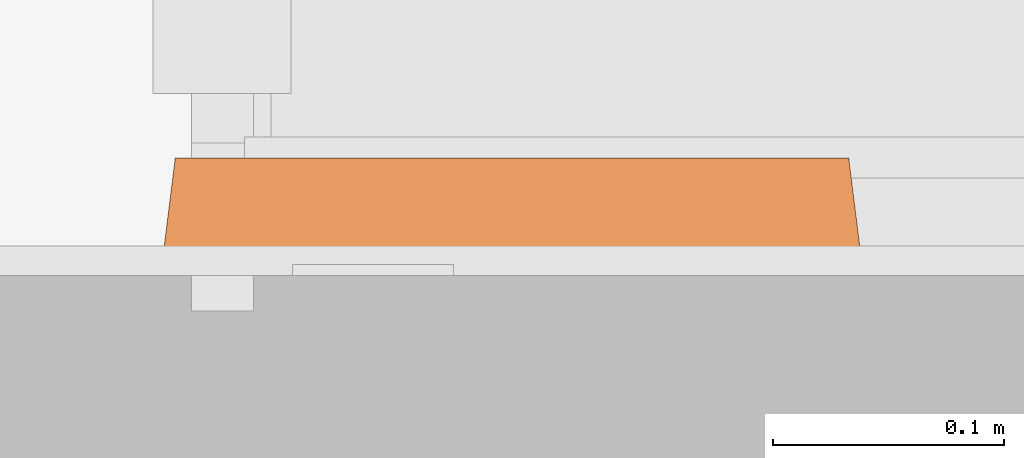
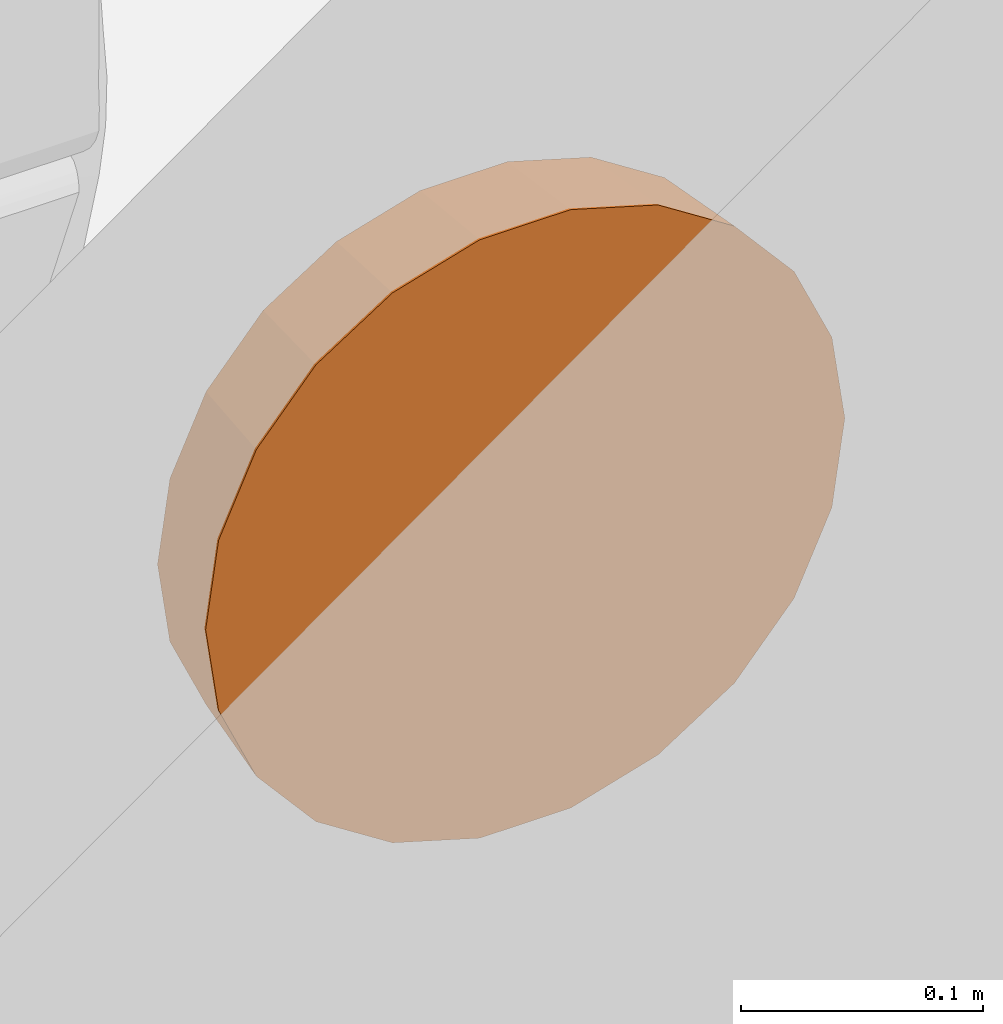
# One storey, part 8 of 11: 1 proxy.
"""IFC2X3 building model written with IfcOpenShell, lengths in feet."""

from ifc_helpers import new_model, entity, si_unit, converted_unit, derived_unit, direction, frame, origin, place, context, subcontext, project, spatial, faceted_brep, source, transform, mapped, material, type_object, type_shapes, element, save


model = new_model("IFC2X3")

# Units and contexts
model_context = context("Model", 3, precision=0.0001, world=origin(), true_north=direction((6.12303176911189e-17, 1.0)))
body_context = subcontext(model_context, "Body", "Model", "MODEL_VIEW")
ifc_project = project(units=[converted_unit("LENGTHUNIT", "FOOT", entity("IfcRatioMeasure", 0.3048), si_unit("LENGTHUNIT", "METRE"), dimensions=[1, 0, 0, 0, 0, 0, 0]), converted_unit("AREAUNIT", "SQUARE FOOT", entity("IfcRatioMeasure", 0.09290304), si_unit("AREAUNIT", "SQUARE_METRE"), dimensions=[2, 0, 0, 0, 0, 0, 0]), converted_unit("VOLUMEUNIT", "CUBIC FOOT", entity("IfcRatioMeasure", 0.028316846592), si_unit("VOLUMEUNIT", "CUBIC_METRE"), dimensions=[3, 0, 0, 0, 0, 0, 0]), converted_unit("PLANEANGLEUNIT", "DEGREE", entity("IfcRatioMeasure", 0.0174532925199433), si_unit("PLANEANGLEUNIT", "RADIAN"), dimensions=[0, 0, 0, 0, 0, 0, 0]), si_unit("MASSUNIT", "GRAM", prefix="KILO"), derived_unit("MASSDENSITYUNIT", [(si_unit("MASSUNIT", "GRAM", prefix="KILO"), 1), (si_unit("LENGTHUNIT", "METRE"), -3)]), si_unit("TIMEUNIT", "SECOND"), si_unit("FREQUENCYUNIT", "HERTZ"), si_unit("THERMODYNAMICTEMPERATUREUNIT", "DEGREE_CELSIUS"), derived_unit("THERMALTRANSMITTANCEUNIT", [(si_unit("MASSUNIT", "GRAM", prefix="KILO"), 1), (si_unit("THERMODYNAMICTEMPERATUREUNIT", "KELVIN"), -1), (si_unit("TIMEUNIT", "SECOND"), -3)]), derived_unit("VOLUMETRICFLOWRATEUNIT", [(si_unit("LENGTHUNIT", "METRE"), 3), (si_unit("TIMEUNIT", "SECOND"), -1)]), si_unit("ELECTRICCURRENTUNIT", "AMPERE"), si_unit("ELECTRICVOLTAGEUNIT", "VOLT"), si_unit("POWERUNIT", "WATT"), si_unit("FORCEUNIT", "NEWTON"), si_unit("ILLUMINANCEUNIT", "LUX"), si_unit("LUMINOUSFLUXUNIT", "LUMEN"), si_unit("LUMINOUSINTENSITYUNIT", "CANDELA"), derived_unit("USERDEFINED", [(si_unit("MASSUNIT", "GRAM", prefix="KILO"), -1), (si_unit("LENGTHUNIT", "METRE"), -2), (si_unit("TIMEUNIT", "SECOND"), 3), (si_unit("LUMINOUSFLUXUNIT", "LUMEN"), 1)]), derived_unit("LINEARVELOCITYUNIT", [(si_unit("LENGTHUNIT", "METRE"), 1), (si_unit("TIMEUNIT", "SECOND"), -1)]), si_unit("PRESSUREUNIT", "PASCAL"), derived_unit("USERDEFINED", [(si_unit("LENGTHUNIT", "METRE"), -2), (si_unit("MASSUNIT", "GRAM", prefix="KILO"), 1), (si_unit("TIMEUNIT", "SECOND"), -2)])], contexts=[model_context])

# Site, building, storey, space
site_placement = place(None, origin())
site = spatial("IfcSite", under=ifc_project, at=site_placement, Name="Default", CompositionType="ELEMENT")
building_placement = place(site_placement, origin())
building = spatial("IfcBuilding", under=site, at=building_placement, Name="EYE CLINIC:  OPTHALMOLOGY AND OPTOMETRY SERVICES (Ch. 233)", CompositionType="ELEMENT")
storey_placement = place(building_placement, origin())
storey = spatial("IfcBuildingStorey", under=building, at=storey_placement, Name="DATUM", CompositionType="ELEMENT", Elevation=0.0)
space_placement = place(storey_placement, origin())
space = spatial("IfcSpace", under=storey, at=space_placement, Name="(OPET2)", CompositionType="ELEMENT", InteriorOrExteriorSpace="INTERNAL")

# Proxy
ifc_material = material(Name="WHITE")
building_element_proxy_type = type_object("IfcBuildingElementProxyType", Name="F3200 - Clock, Battery, 12in Dia", PredefinedType="NOTDEFINED", material=ifc_material)
shared_shape = source(origin(), body_context, "Body", "Brep", [
    faceted_brep([(0.218750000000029, 0.121113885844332, 0.16666666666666), (0.309359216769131, 0.190640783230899, 0.16666666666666), (0.3788861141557, 0.281250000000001, 0.16666666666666), (0.422592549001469, 0.386766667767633, 0.16666666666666), (0.437500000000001, 0.499999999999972, 0.16666666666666), (0.42259254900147, 0.613233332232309, 0.16666666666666), (0.378886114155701, 0.718749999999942, 0.16666666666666), (0.309359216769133, 0.809359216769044, 0.16666666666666), (0.218750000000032, 0.878886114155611, 0.16666666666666), (0.113233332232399, 0.922592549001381, 0.16666666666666), (0.0, 0.937499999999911, 0.16666666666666), (-0.113233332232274, 0.922592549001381, 0.16666666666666), (-0.218749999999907, 0.878886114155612, 0.16666666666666), (-0.309359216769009, 0.809359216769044, 0.16666666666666), (-0.378886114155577, 0.718749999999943, 0.16666666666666), (-0.422592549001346, 0.613233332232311, 0.16666666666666), (-0.437499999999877, 0.499999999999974, 0.16666666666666), (-0.422592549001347, 0.386766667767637, 0.16666666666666), (-0.378886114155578, 0.281250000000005, 0.16666666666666), (-0.309359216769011, 0.190640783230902, 0.16666666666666), (-0.218749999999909, 0.121113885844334, 0.16666666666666), (-0.113233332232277, 0.0774074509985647, 0.16666666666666), (0.0, 0.0625000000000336, 0.16666666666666), (0.113233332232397, 0.0774074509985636, 0.16666666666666), (0.42259254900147, 0.613233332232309, 0.145833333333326), (0.437500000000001, 0.49999999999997, 0.145833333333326), (0.422592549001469, 0.386766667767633, 0.145833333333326), (0.3788861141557, 0.281250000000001, 0.145833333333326), (0.309359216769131, 0.190640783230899, 0.145833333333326), (0.218750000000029, 0.121113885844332, 0.145833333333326), (0.113233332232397, 0.0774074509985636, 0.145833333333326), (0.0, 0.0625000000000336, 0.145833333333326), (-0.113233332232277, 0.0774074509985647, 0.145833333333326), (-0.218749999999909, 0.121113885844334, 0.145833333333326), (-0.309359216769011, 0.190640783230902, 0.145833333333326), (-0.378886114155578, 0.281250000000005, 0.145833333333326), (-0.422592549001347, 0.386766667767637, 0.145833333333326), (-0.437499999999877, 0.499999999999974, 0.145833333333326), (-0.422592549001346, 0.613233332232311, 0.145833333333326), (-0.378886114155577, 0.718749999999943, 0.145833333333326), (-0.309359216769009, 0.809359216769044, 0.145833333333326), (-0.218749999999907, 0.878886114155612, 0.145833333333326), (-0.113233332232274, 0.922592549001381, 0.145833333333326), (0.0, 0.937499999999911, 0.145833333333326), (0.113233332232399, 0.922592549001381, 0.145833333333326), (0.218750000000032, 0.878886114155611, 0.145833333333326), (0.309359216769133, 0.809359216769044, 0.145833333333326), (0.378886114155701, 0.718749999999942, 0.145833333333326)], [[[0, 1, 2, 3, 4, 5, 6, 7, 8, 9, 10, 11, 12, 13, 14, 15, 16, 17, 18, 19, 20, 21, 22, 23]], [[24, 25, 26, 27, 28, 29, 30, 31, 32, 33, 34, 35, 36, 37, 38, 39, 40, 41, 42, 43, 44, 45, 46, 47]], [[36, 17, 16, 37]], [[35, 18, 17, 36]], [[20, 19, 34, 33]], [[35, 34, 19, 18]], [[21, 20, 33, 32]], [[22, 21, 32, 31]], [[30, 23, 22, 31]], [[29, 0, 23, 30]], [[2, 1, 28, 27]], [[29, 28, 1, 0]], [[3, 2, 27, 26]], [[4, 3, 26, 25]], [[24, 5, 4, 25]], [[47, 6, 5, 24]], [[8, 7, 46, 45]], [[47, 46, 7, 6]], [[9, 8, 45, 44]], [[10, 9, 44, 43]], [[11, 10, 43, 42]], [[12, 11, 42, 41]], [[14, 39, 38, 15]], [[15, 38, 37, 16]], [[12, 41, 40, 13]], [[40, 39, 14, 13]]]),
    faceted_brep([(-0.327430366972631, 0.122125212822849, 0.0), (-0.420626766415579, 0.229679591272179, 0.0), (0.0, 0.499999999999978, 0.0), (-0.207707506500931, 0.045184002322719, 0.0), (-0.479746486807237, 0.359133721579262, 0.0), (-0.499999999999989, 0.499999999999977, 0.0), (-0.479746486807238, 0.640866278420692, 0.0), (-0.420626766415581, 0.770320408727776, 0.0), (-0.327430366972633, 0.877874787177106, 0.0), (-0.207707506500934, 0.954815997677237, 0.0), (-0.0711574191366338, 0.994910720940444, 0.0), (0.0711574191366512, 0.994910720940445, 0.0), (0.207707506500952, 0.954815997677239, 0.0), (0.327430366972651, 0.877874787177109, 0.0), (0.4206267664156, 0.77032040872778, 0.0), (0.479746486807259, 0.640866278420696, 0.0), (0.500000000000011, 0.499999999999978, 0.0), (0.47974648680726, 0.359133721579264, 0.0), (0.420626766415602, 0.22967959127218, 0.0), (0.327430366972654, 0.12212521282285, 0.0), (0.207707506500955, 0.0451840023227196, 0.0), (0.0711574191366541, 0.00508927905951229, 0.0), (-0.0711574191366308, 0.00508927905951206, 0.0), (0.0, 0.499999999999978, 0.145833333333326), (-0.368048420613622, 0.263469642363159, 0.145833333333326), (-0.286501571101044, 0.169359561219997, 0.145833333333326), (-0.419778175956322, 0.376742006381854, 0.145833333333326), (-0.181744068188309, 0.102036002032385, 0.145833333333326), (-0.0622627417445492, 0.0669531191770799, 0.145833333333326), (-0.437499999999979, 0.499999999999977, 0.145833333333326), (0.0622627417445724, 0.0669531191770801, 0.145833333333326), (0.181744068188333, 0.102036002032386, 0.145833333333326), (0.286501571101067, 0.169359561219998, 0.145833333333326), (0.368048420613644, 0.26346964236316, 0.145833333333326), (0.419778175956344, 0.376742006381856, 0.145833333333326), (0.437500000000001, 0.499999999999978, 0.145833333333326), (-0.419778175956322, 0.623257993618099, 0.145833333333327), (-0.368048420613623, 0.736530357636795, 0.145833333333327), (-0.286501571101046, 0.830640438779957, 0.145833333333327), (-0.181744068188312, 0.89796399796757, 0.145833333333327), (-0.0622627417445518, 0.933046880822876, 0.145833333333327), (0.419778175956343, 0.623257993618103, 0.145833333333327), (0.368048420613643, 0.736530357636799, 0.145833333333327), (0.286501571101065, 0.83064043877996, 0.145833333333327), (0.18174406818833, 0.897963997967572, 0.145833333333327), (0.0622627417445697, 0.933046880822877, 0.145833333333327), (0.419778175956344, 0.376742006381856, 0.16666666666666), (0.437500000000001, 0.499999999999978, 0.16666666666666), (0.368048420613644, 0.26346964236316, 0.16666666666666), (0.0622627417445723, 0.0669531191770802, 0.166666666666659), (0.181744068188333, 0.102036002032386, 0.166666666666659), (0.286501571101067, 0.169359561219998, 0.166666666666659), (-0.0622627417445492, 0.06695311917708, 0.166666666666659), (-0.286501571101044, 0.169359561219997, 0.166666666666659), (-0.18174406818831, 0.102036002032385, 0.166666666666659), (-0.437499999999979, 0.499999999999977, 0.16666666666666), (-0.419778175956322, 0.376742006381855, 0.16666666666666), (-0.368048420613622, 0.263469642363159, 0.16666666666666), (-0.419778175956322, 0.623257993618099, 0.16666666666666), (-0.368048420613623, 0.736530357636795, 0.16666666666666), (-0.181744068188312, 0.89796399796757, 0.166666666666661), (-0.286501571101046, 0.830640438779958, 0.166666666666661), (-0.0622627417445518, 0.933046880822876, 0.166666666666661), (0.0622627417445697, 0.933046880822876, 0.166666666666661), (0.18174406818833, 0.897963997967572, 0.166666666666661), (0.286501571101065, 0.83064043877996, 0.166666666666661), (0.419778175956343, 0.623257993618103, 0.16666666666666), (0.368048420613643, 0.736530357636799, 0.16666666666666), (-0.459757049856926, 0.365003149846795, 0.16666666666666), (-0.479166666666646, 0.499999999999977, 0.16666666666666), (-0.403100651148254, 0.240942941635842, 0.16666666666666), (-0.313787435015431, 0.137869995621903, 0.166666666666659), (-0.199053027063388, 0.0641346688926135, 0.166666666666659), (-0.0681925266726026, 0.0257105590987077, 0.166666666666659), (0.068192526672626, 0.0257105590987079, 0.166666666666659), (0.199053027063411, 0.0641346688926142, 0.166666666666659), (0.313787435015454, 0.137869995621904, 0.166666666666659), (0.403100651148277, 0.240942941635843, 0.16666666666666), (0.459757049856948, 0.365003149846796, 0.16666666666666), (0.479166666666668, 0.499999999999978, 0.16666666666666), (0.459757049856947, 0.634996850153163, 0.16666666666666), (0.403100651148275, 0.759057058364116, 0.16666666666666), (0.313787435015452, 0.862130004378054, 0.166666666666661), (0.199053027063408, 0.935865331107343, 0.166666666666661), (0.068192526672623, 0.974289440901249, 0.166666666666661), (-0.0681925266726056, 0.974289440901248, 0.166666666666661), (-0.199053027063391, 0.935865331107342, 0.166666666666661), (-0.313787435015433, 0.862130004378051, 0.166666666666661), (-0.403100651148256, 0.759057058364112, 0.16666666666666), (-0.459757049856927, 0.634996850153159, 0.16666666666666)], [[[0, 1, 2]], [[0, 2, 3]], [[4, 2, 1]], [[2, 4, 5]], [[5, 6, 2]], [[2, 6, 7]], [[2, 7, 8]], [[2, 8, 9]], [[9, 10, 2]], [[11, 2, 10]], [[2, 11, 12]], [[2, 12, 13]], [[14, 2, 13]], [[2, 14, 15]], [[15, 16, 2]], [[2, 16, 17]], [[2, 17, 18]], [[18, 19, 2]], [[19, 20, 2]], [[21, 2, 20]], [[2, 21, 22]], [[22, 3, 2]], [[23, 24, 25]], [[24, 23, 26]], [[27, 23, 25]], [[23, 27, 28]], [[29, 26, 23]], [[28, 30, 23]], [[31, 23, 30]], [[23, 31, 32]], [[23, 32, 33]], [[33, 34, 23]], [[34, 35, 23]], [[23, 36, 29]], [[37, 36, 23]], [[38, 37, 23]], [[39, 38, 23]], [[23, 40, 39]], [[23, 35, 41]], [[41, 42, 23]], [[43, 23, 42]], [[43, 44, 23]], [[44, 45, 23]], [[40, 23, 45]], [[46, 47, 35, 34]], [[46, 34, 33, 48]], [[31, 30, 49, 50]], [[32, 31, 50, 51]], [[51, 48, 33, 32]], [[30, 28, 52, 49]], [[27, 25, 53, 54]], [[28, 27, 54, 52]], [[29, 55, 56, 26]], [[26, 56, 57, 24]], [[24, 57, 53, 25]], [[55, 29, 36, 58]], [[58, 36, 37, 59]], [[60, 61, 38, 39]], [[59, 37, 38, 61]], [[39, 40, 62, 60]], [[40, 45, 63, 62]], [[64, 63, 45, 44]], [[64, 44, 43, 65]], [[41, 35, 47, 66]], [[42, 41, 66, 67]], [[67, 65, 43, 42]], [[68, 55, 69]], [[56, 55, 68]], [[68, 70, 56]], [[70, 57, 56]], [[71, 57, 70]], [[57, 71, 53]], [[72, 53, 71]], [[54, 53, 72]], [[72, 73, 54]], [[73, 52, 54]], [[49, 52, 73]], [[73, 74, 49]], [[74, 50, 49]], [[75, 50, 74]], [[50, 75, 51]], [[76, 51, 75]], [[48, 51, 76]], [[76, 77, 48]], [[77, 46, 48]], [[78, 46, 77]], [[46, 78, 47]], [[78, 79, 47]], [[79, 80, 47]], [[66, 47, 80]], [[80, 81, 66]], [[66, 81, 67]], [[82, 67, 81]], [[67, 82, 65]], [[65, 82, 83]], [[64, 65, 83]], [[83, 84, 64]], [[64, 84, 63]], [[85, 63, 84]], [[63, 85, 62]], [[62, 85, 60]], [[86, 60, 85]], [[60, 86, 61]], [[61, 86, 87]], [[59, 61, 87]], [[87, 88, 59]], [[59, 88, 58]], [[89, 58, 88]], [[55, 89, 69]], [[58, 89, 55]], [[78, 17, 16, 79]], [[77, 18, 17, 78]], [[19, 76, 75, 20]], [[77, 76, 19, 18]], [[20, 75, 74, 21]], [[74, 73, 22, 21]], [[22, 73, 72, 3]], [[0, 3, 72, 71]], [[4, 1, 70, 68]], [[70, 1, 0, 71]], [[5, 4, 68, 69]], [[89, 6, 5, 69]], [[88, 7, 6, 89]], [[8, 87, 86, 9]], [[88, 87, 8, 7]], [[9, 86, 85, 10]], [[85, 84, 11, 10]], [[83, 12, 11, 84]], [[82, 13, 12, 83]], [[14, 81, 80, 15]], [[82, 81, 14, 13]], [[15, 80, 79, 16]]]),
])
type_shapes(building_element_proxy_type, [shared_shape])
proxy_placement = place(space_placement, frame((-32.9435641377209, -1.19237431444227, 6.0), z_axis=(0.0, 1.0, 0.0), x_axis=(-1.0, 0.0, 0.0)))
element("IfcBuildingElementProxy", 1, at=proxy_placement, inside=space, type_object=building_element_proxy_type, material=ifc_material, Name="F3200 - Clock, Battery, 12in Dia:F3200 - Clock, Battery, 12in Dia", ObjectType="F3200 - Clock, Battery, 12in Dia", context=body_context, shape_type="MappedRepresentation", body=[
    mapped(shared_shape, transform((0.0, 0.0, 0.0), scale=1.0)),
])

save(model, "model.ifc")
